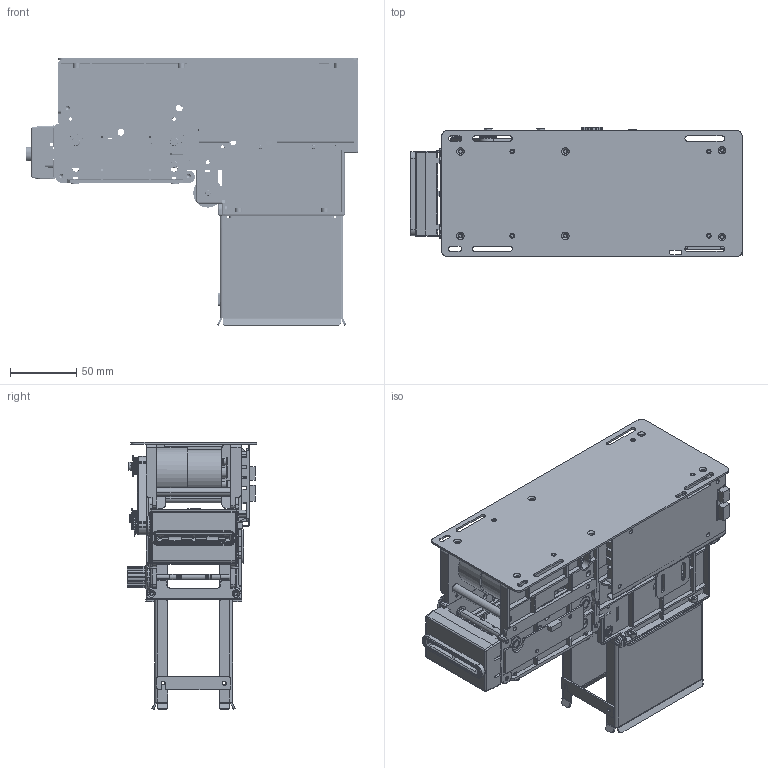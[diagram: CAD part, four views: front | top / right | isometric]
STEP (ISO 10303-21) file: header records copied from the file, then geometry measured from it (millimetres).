
FILE_DESCRIPTION((''),'2;1');
FILE_NAME('K750-C','2025-06-27T',('TTCE'),(''),'CREO PARAMETRIC BY PTC INC, 2014190','CREO PARAMETRIC BY PTC INC, 2014190','');
FILE_SCHEMA(('CONFIG_CONTROL_DESIGN'));
Products named in the file (1): K750-C
Bounding box: 250 x 97.6 x 201.47 mm (x, y, z)
Surface area: 366516.2 mm2 (no closed solid volume)
Topology: 0 solids, 40 shells, 4199 faces, 11795 edges, 7756 vertices
Faces by surface type: plane 2370, cylinder 1501, cone 196, torus 83, bspline 31, sphere 18
Entity records: 140338 total; most frequent: CARTESIAN_POINT 29603, ORIENTED_EDGE 23482, DIRECTION 22792, EDGE_CURVE 11757, VERTEX_POINT 7756, VECTOR 7736, LINE 7736, AXIS2_PLACEMENT_3D 7528
